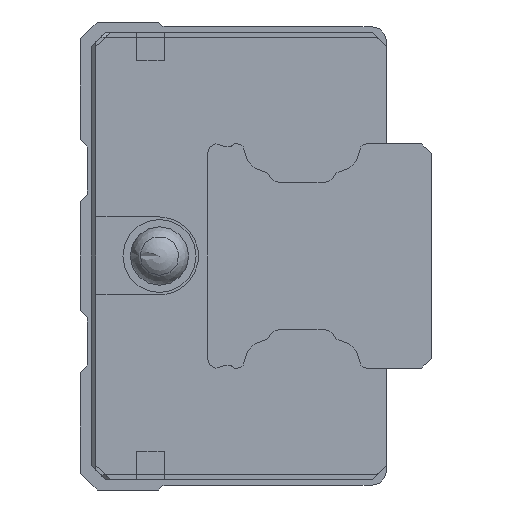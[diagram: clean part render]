
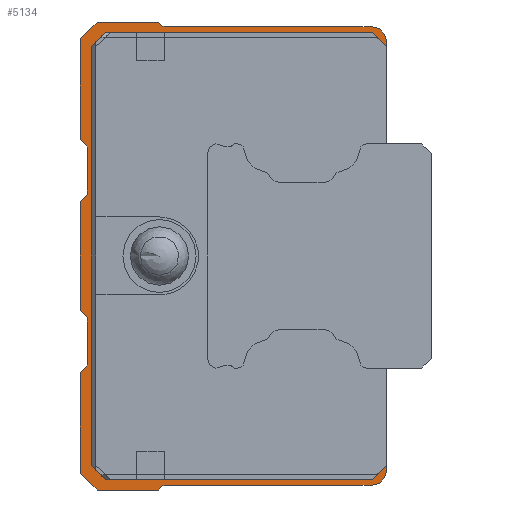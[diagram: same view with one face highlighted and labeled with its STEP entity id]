
A CAD part, left-side view. The second image highlights one B-rep face of the part: STEP entity #5134.
In plain terms, the highlighted planar face has unit normal (-1, 0, 0).
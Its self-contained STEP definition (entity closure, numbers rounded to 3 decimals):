
#58=LINE('',#7926,#378);
#67=LINE('',#7945,#387);
#74=LINE('',#7958,#394);
#100=LINE('',#8014,#420);
#108=LINE('',#8030,#428);
#114=LINE('',#8042,#434);
#139=LINE('',#8093,#459);
#144=LINE('',#8102,#464);
#146=LINE('',#8106,#466);
#167=LINE('',#8196,#487);
#171=LINE('',#8205,#491);
#174=LINE('',#8211,#494);
#178=LINE('',#8223,#498);
#182=LINE('',#8238,#502);
#186=LINE('',#8250,#506);
#189=LINE('',#8256,#509);
#192=LINE('',#8262,#512);
#195=LINE('',#8270,#515);
#198=LINE('',#8276,#518);
#202=LINE('',#8288,#522);
#206=LINE('',#8300,#526);
#209=LINE('',#8308,#529);
#212=LINE('',#8314,#532);
#216=LINE('',#8326,#536);
#220=LINE('',#8338,#540);
#223=LINE('',#8346,#543);
#378=VECTOR('',#6234,1000.);
#387=VECTOR('',#6249,1000.);
#394=VECTOR('',#6260,1000.);
#420=VECTOR('',#6300,1000.);
#428=VECTOR('',#6312,1000.);
#434=VECTOR('',#6324,1000.);
#459=VECTOR('',#6365,1000.);
#464=VECTOR('',#6372,1000.);
#466=VECTOR('',#6376,1000.);
#487=VECTOR('',#6451,1000.);
#491=VECTOR('',#6457,1000.);
#494=VECTOR('',#6462,1000.);
#498=VECTOR('',#6474,1000.);
#502=VECTOR('',#6492,1000.);
#506=VECTOR('',#6504,1000.);
#509=VECTOR('',#6509,1000.);
#512=VECTOR('',#6514,1000.);
#515=VECTOR('',#6521,1000.);
#518=VECTOR('',#6526,1000.);
#522=VECTOR('',#6538,1000.);
#526=VECTOR('',#6550,1000.);
#529=VECTOR('',#6557,1000.);
#532=VECTOR('',#6562,1000.);
#536=VECTOR('',#6574,1000.);
#540=VECTOR('',#6586,1000.);
#543=VECTOR('',#6593,1000.);
#733=PLANE('',#5581);
#1389=ORIENTED_EDGE('',*,*,#2406,.T.);
#1390=ORIENTED_EDGE('',*,*,#2413,.T.);
#1391=ORIENTED_EDGE('',*,*,#2486,.F.);
#1392=ORIENTED_EDGE('',*,*,#2550,.F.);
#1393=ORIENTED_EDGE('',*,*,#2547,.F.);
#1394=ORIENTED_EDGE('',*,*,#2544,.T.);
#1395=ORIENTED_EDGE('',*,*,#2541,.F.);
#1396=ORIENTED_EDGE('',*,*,#2538,.F.);
#1397=ORIENTED_EDGE('',*,*,#2534,.F.);
#1398=ORIENTED_EDGE('',*,*,#2609,.F.);
#1399=ORIENTED_EDGE('',*,*,#2605,.F.);
#1400=ORIENTED_EDGE('',*,*,#2602,.T.);
#1401=ORIENTED_EDGE('',*,*,#2599,.F.);
#1402=ORIENTED_EDGE('',*,*,#2596,.T.);
#1403=ORIENTED_EDGE('',*,*,#2593,.F.);
#1404=ORIENTED_EDGE('',*,*,#2590,.F.);
#1405=ORIENTED_EDGE('',*,*,#2586,.F.);
#1406=ORIENTED_EDGE('',*,*,#2583,.T.);
#1407=ORIENTED_EDGE('',*,*,#2580,.F.);
#1408=ORIENTED_EDGE('',*,*,#2577,.T.);
#1409=ORIENTED_EDGE('',*,*,#2574,.F.);
#1410=ORIENTED_EDGE('',*,*,#2571,.F.);
#1411=ORIENTED_EDGE('',*,*,#2567,.F.);
#1412=ORIENTED_EDGE('',*,*,#2564,.F.);
#1413=ORIENTED_EDGE('',*,*,#2561,.F.);
#1414=ORIENTED_EDGE('',*,*,#2558,.T.);
#1415=ORIENTED_EDGE('',*,*,#2555,.F.);
#1416=ORIENTED_EDGE('',*,*,#2552,.F.);
#1417=ORIENTED_EDGE('',*,*,#2488,.F.);
#1418=ORIENTED_EDGE('',*,*,#2448,.T.);
#1419=ORIENTED_EDGE('',*,*,#2455,.T.);
#1420=ORIENTED_EDGE('',*,*,#2440,.T.);
#1421=ORIENTED_EDGE('',*,*,#2481,.T.);
#1422=ORIENTED_EDGE('',*,*,#2396,.T.);
#2396=EDGE_CURVE('',#3058,#3057,#58,.T.);
#2406=EDGE_CURVE('',#3057,#3064,#67,.T.);
#2413=EDGE_CURVE('',#3064,#3068,#74,.T.);
#2440=EDGE_CURVE('',#3092,#3091,#100,.T.);
#2448=EDGE_CURVE('',#3098,#3097,#108,.T.);
#2455=EDGE_CURVE('',#3097,#3092,#114,.T.);
#2481=EDGE_CURVE('',#3091,#3058,#139,.T.);
#2486=EDGE_CURVE('',#3121,#3068,#144,.T.);
#2488=EDGE_CURVE('',#3098,#3123,#146,.T.);
#2534=EDGE_CURVE('',#3165,#3166,#167,.T.);
#2538=EDGE_CURVE('',#3166,#3169,#171,.T.);
#2541=EDGE_CURVE('',#3169,#3171,#174,.T.);
#2544=EDGE_CURVE('',#3173,#3171,#3575,.T.);
#2547=EDGE_CURVE('',#3173,#3175,#178,.T.);
#2550=EDGE_CURVE('',#3175,#3121,#3577,.T.);
#2552=EDGE_CURVE('',#3123,#3177,#3579,.T.);
#2555=EDGE_CURVE('',#3177,#3179,#182,.T.);
#2558=EDGE_CURVE('',#3181,#3179,#3581,.T.);
#2561=EDGE_CURVE('',#3181,#3183,#186,.T.);
#2564=EDGE_CURVE('',#3183,#3185,#189,.T.);
#2567=EDGE_CURVE('',#3185,#3187,#192,.T.);
#2571=EDGE_CURVE('',#3187,#3190,#195,.T.);
#2574=EDGE_CURVE('',#3190,#3192,#198,.T.);
#2577=EDGE_CURVE('',#3194,#3192,#3584,.T.);
#2580=EDGE_CURVE('',#3194,#3196,#202,.T.);
#2583=EDGE_CURVE('',#3198,#3196,#3586,.T.);
#2586=EDGE_CURVE('',#3198,#3200,#206,.T.);
#2590=EDGE_CURVE('',#3200,#3203,#209,.T.);
#2593=EDGE_CURVE('',#3203,#3205,#212,.T.);
#2596=EDGE_CURVE('',#3207,#3205,#3589,.T.);
#2599=EDGE_CURVE('',#3207,#3209,#216,.T.);
#2602=EDGE_CURVE('',#3211,#3209,#3591,.T.);
#2605=EDGE_CURVE('',#3211,#3213,#220,.T.);
#2609=EDGE_CURVE('',#3213,#3165,#223,.T.);
#3057=VERTEX_POINT('',#7925);
#3058=VERTEX_POINT('',#7927);
#3064=VERTEX_POINT('',#7944);
#3068=VERTEX_POINT('',#7957);
#3091=VERTEX_POINT('',#8013);
#3092=VERTEX_POINT('',#8015);
#3097=VERTEX_POINT('',#8029);
#3098=VERTEX_POINT('',#8031);
#3121=VERTEX_POINT('',#8101);
#3123=VERTEX_POINT('',#8107);
#3165=VERTEX_POINT('',#8197);
#3166=VERTEX_POINT('',#8198);
#3169=VERTEX_POINT('',#8206);
#3171=VERTEX_POINT('',#8212);
#3173=VERTEX_POINT('',#8218);
#3175=VERTEX_POINT('',#8224);
#3177=VERTEX_POINT('',#8233);
#3179=VERTEX_POINT('',#8239);
#3181=VERTEX_POINT('',#8245);
#3183=VERTEX_POINT('',#8251);
#3185=VERTEX_POINT('',#8257);
#3187=VERTEX_POINT('',#8263);
#3190=VERTEX_POINT('',#8271);
#3192=VERTEX_POINT('',#8277);
#3194=VERTEX_POINT('',#8283);
#3196=VERTEX_POINT('',#8289);
#3198=VERTEX_POINT('',#8295);
#3200=VERTEX_POINT('',#8301);
#3203=VERTEX_POINT('',#8309);
#3205=VERTEX_POINT('',#8315);
#3207=VERTEX_POINT('',#8321);
#3209=VERTEX_POINT('',#8327);
#3211=VERTEX_POINT('',#8333);
#3213=VERTEX_POINT('',#8339);
#3575=CIRCLE('',#5540,0.5);
#3577=CIRCLE('',#5544,1.5);
#3579=CIRCLE('',#5547,1.5);
#3581=CIRCLE('',#5551,0.5);
#3584=CIRCLE('',#5560,0.5);
#3586=CIRCLE('',#5564,0.5);
#3589=CIRCLE('',#5571,0.5);
#3591=CIRCLE('',#5575,0.5);
#3930=EDGE_LOOP('',(#1389,#1390,#1391,#1392,#1393,#1394,#1395,#1396,#1397,
#1398,#1399,#1400,#1401,#1402,#1403,#1404,#1405,#1406,#1407,#1408,#1409,
#1410,#1411,#1412,#1413,#1414,#1415,#1416,#1417,#1418,#1419,#1420,#1421,
#1422));
#4536=FACE_BOUND('',#3930,.T.);
#5134=ADVANCED_FACE('',(#4536),#733,.F.);
#5540=AXIS2_PLACEMENT_3D('',#8217,#6467,#6468);
#5544=AXIS2_PLACEMENT_3D('',#8229,#6479,#6480);
#5547=AXIS2_PLACEMENT_3D('',#8232,#6485,#6486);
#5551=AXIS2_PLACEMENT_3D('',#8244,#6497,#6498);
#5560=AXIS2_PLACEMENT_3D('',#8282,#6531,#6532);
#5564=AXIS2_PLACEMENT_3D('',#8294,#6543,#6544);
#5571=AXIS2_PLACEMENT_3D('',#8320,#6567,#6568);
#5575=AXIS2_PLACEMENT_3D('',#8332,#6579,#6580);
#5581=AXIS2_PLACEMENT_3D('',#8349,#6597,#6598);
#6234=DIRECTION('',(0.,-0.707,0.707));
#6249=DIRECTION('',(0.,-1.,0.));
#6260=DIRECTION('',(0.,-0.707,-0.707));
#6300=DIRECTION('',(0.,0.707,0.707));
#6312=DIRECTION('',(0.,0.707,-0.707));
#6324=DIRECTION('',(0.,1.,0.));
#6365=DIRECTION('',(0.,0.,1.));
#6372=DIRECTION('',(0.,0.,-1.));
#6376=DIRECTION('',(0.,0.,-1.));
#6451=DIRECTION('',(0.,-0.707,0.707));
#6457=DIRECTION('',(0.,-1.,0.));
#6462=DIRECTION('',(0.,-0.707,-0.707));
#6467=DIRECTION('',(1.,0.,0.));
#6468=DIRECTION('',(0.,0.,-1.));
#6474=DIRECTION('',(0.,-1.,0.));
#6479=DIRECTION('',(1.,0.,0.));
#6480=DIRECTION('',(0.,0.,-1.));
#6485=DIRECTION('',(1.,0.,0.));
#6486=DIRECTION('',(0.,0.,-1.));
#6492=DIRECTION('',(0.,1.,0.));
#6497=DIRECTION('',(1.,0.,0.));
#6498=DIRECTION('',(0.,0.,-1.));
#6504=DIRECTION('',(0.,0.707,-0.707));
#6509=DIRECTION('',(0.,1.,0.));
#6514=DIRECTION('',(0.,0.707,0.707));
#6521=DIRECTION('',(0.,0.,1.));
#6526=DIRECTION('',(0.,-0.707,0.707));
#6531=DIRECTION('',(1.,0.,0.));
#6532=DIRECTION('',(0.,0.,-1.));
#6538=DIRECTION('',(0.,0.,1.));
#6543=DIRECTION('',(1.,0.,0.));
#6544=DIRECTION('',(0.,0.,-1.));
#6550=DIRECTION('',(0.,0.707,0.707));
#6557=DIRECTION('',(0.,0.,1.));
#6562=DIRECTION('',(0.,-0.707,0.707));
#6567=DIRECTION('',(1.,0.,0.));
#6568=DIRECTION('',(0.,0.,-1.));
#6574=DIRECTION('',(0.,0.,1.));
#6579=DIRECTION('',(1.,0.,0.));
#6580=DIRECTION('',(0.,0.,-1.));
#6586=DIRECTION('',(0.,0.707,0.707));
#6593=DIRECTION('',(0.,0.,1.));
#6597=DIRECTION('',(1.,0.,0.));
#6598=DIRECTION('',(0.,0.,-1.));
#7925=CARTESIAN_POINT('',(-18.15,28.82,22.95));
#7926=CARTESIAN_POINT('',(-18.15,30.32,21.45));
#7927=CARTESIAN_POINT('',(-18.15,30.32,21.45));
#7944=CARTESIAN_POINT('',(-18.15,1.5,22.95));
#7945=CARTESIAN_POINT('',(-18.15,28.82,22.95));
#7957=CARTESIAN_POINT('',(-18.15,0.,21.45));
#7958=CARTESIAN_POINT('',(-18.15,1.5,22.95));
#8013=CARTESIAN_POINT('',(-18.15,30.32,-21.45));
#8014=CARTESIAN_POINT('',(-18.15,28.82,-22.95));
#8015=CARTESIAN_POINT('',(-18.15,28.82,-22.95));
#8029=CARTESIAN_POINT('',(-18.15,1.5,-22.95));
#8030=CARTESIAN_POINT('',(-18.15,0.,-21.45));
#8031=CARTESIAN_POINT('',(-18.15,0.,-21.45));
#8042=CARTESIAN_POINT('',(-18.15,1.5,-22.95));
#8093=CARTESIAN_POINT('',(-18.15,30.32,-21.45));
#8101=CARTESIAN_POINT('',(-18.15,0.,22.));
#8102=CARTESIAN_POINT('',(-18.15,0.,22.));
#8106=CARTESIAN_POINT('',(-18.15,0.,22.));
#8107=CARTESIAN_POINT('',(-18.15,0.,-22.));
#8196=CARTESIAN_POINT('',(-18.15,31.4,22.3));
#8197=CARTESIAN_POINT('',(-18.15,31.4,22.3));
#8198=CARTESIAN_POINT('',(-18.15,29.7,24.));
#8205=CARTESIAN_POINT('',(-18.15,29.7,24.));
#8206=CARTESIAN_POINT('',(-18.15,23.4,24.));
#8211=CARTESIAN_POINT('',(-18.15,23.4,24.));
#8212=CARTESIAN_POINT('',(-18.15,23.046,23.646));
#8217=CARTESIAN_POINT('',(-18.15,22.693,24.));
#8218=CARTESIAN_POINT('',(-18.15,22.693,23.5));
#8223=CARTESIAN_POINT('',(-18.15,22.693,23.5));
#8224=CARTESIAN_POINT('',(-18.15,1.5,23.5));
#8229=CARTESIAN_POINT('',(-18.15,1.5,22.));
#8232=CARTESIAN_POINT('',(-18.15,1.5,-22.));
#8233=CARTESIAN_POINT('',(-18.15,1.5,-23.5));
#8238=CARTESIAN_POINT('',(-18.15,1.5,-23.5));
#8239=CARTESIAN_POINT('',(-18.15,22.693,-23.5));
#8244=CARTESIAN_POINT('',(-18.15,22.693,-24.));
#8245=CARTESIAN_POINT('',(-18.15,23.046,-23.646));
#8250=CARTESIAN_POINT('',(-18.15,23.046,-23.646));
#8251=CARTESIAN_POINT('',(-18.15,23.4,-24.));
#8256=CARTESIAN_POINT('',(-18.15,23.4,-24.));
#8257=CARTESIAN_POINT('',(-18.15,29.7,-24.));
#8262=CARTESIAN_POINT('',(-18.15,29.7,-24.));
#8263=CARTESIAN_POINT('',(-18.15,31.4,-22.3));
#8270=CARTESIAN_POINT('',(-18.15,31.4,-22.3));
#8271=CARTESIAN_POINT('',(-18.15,31.4,-11.95));
#8276=CARTESIAN_POINT('',(-18.15,31.4,-11.95));
#8277=CARTESIAN_POINT('',(-18.15,30.846,-11.396));
#8282=CARTESIAN_POINT('',(-18.15,31.2,-11.043));
#8283=CARTESIAN_POINT('',(-18.15,30.7,-11.043));
#8288=CARTESIAN_POINT('',(-18.15,30.7,-11.043));
#8289=CARTESIAN_POINT('',(-18.15,30.7,-6.457));
#8294=CARTESIAN_POINT('',(-18.15,31.2,-6.457));
#8295=CARTESIAN_POINT('',(-18.15,30.846,-6.104));
#8300=CARTESIAN_POINT('',(-18.15,30.846,-6.104));
#8301=CARTESIAN_POINT('',(-18.15,31.4,-5.55));
#8308=CARTESIAN_POINT('',(-18.15,31.4,-5.55));
#8309=CARTESIAN_POINT('',(-18.15,31.4,5.55));
#8314=CARTESIAN_POINT('',(-18.15,31.4,5.55));
#8315=CARTESIAN_POINT('',(-18.15,30.846,6.104));
#8320=CARTESIAN_POINT('',(-18.15,31.2,6.457));
#8321=CARTESIAN_POINT('',(-18.15,30.7,6.457));
#8326=CARTESIAN_POINT('',(-18.15,30.7,6.457));
#8327=CARTESIAN_POINT('',(-18.15,30.7,11.043));
#8332=CARTESIAN_POINT('',(-18.15,31.2,11.043));
#8333=CARTESIAN_POINT('',(-18.15,30.846,11.396));
#8338=CARTESIAN_POINT('',(-18.15,30.846,11.396));
#8339=CARTESIAN_POINT('',(-18.15,31.4,11.95));
#8346=CARTESIAN_POINT('',(-18.15,31.4,11.95));
#8349=CARTESIAN_POINT('',(-18.15,22.693,24.));
